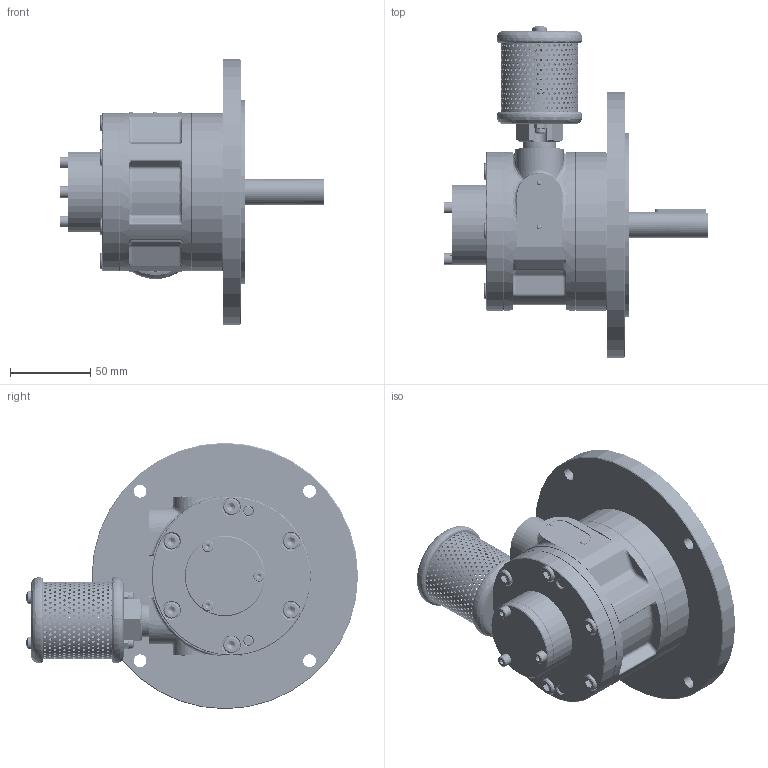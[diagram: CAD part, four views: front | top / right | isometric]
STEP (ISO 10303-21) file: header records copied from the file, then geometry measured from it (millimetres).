
FILE_DESCRIPTION (( 'STEP AP214' ), '1' );
FILE_NAME ('4VMN-Nema (Alu. End Plates)_23-04-26.STEP', '2026-04-24T04:51:39', ( '' ), ( '' ), 'SwSTEP 2.0', 'SolidWorks 2017', '' );
FILE_SCHEMA (( 'AUTOMOTIVE_DESIGN' ));
Length unit declared in the file: millimetre
Products named in the file (2): 4VMN-Nema (Alu. End Plates)_23-04-26
Bounding box: 165.05 x 206.92 x 166 mm (x, y, z)
Volume: 548588.8 mm3; surface area: 219244.6 mm2
Topology: 66 solids, 66 shells, 4559 faces, 12227 edges, 7728 vertices
Faces by surface type: cylinder 2519, cone 1086, plane 707, bspline 247
Entity records: 203772 total; most frequent: CARTESIAN_POINT 80429, ORIENTED_EDGE 24190, DIRECTION 20387, EDGE_CURVE 12095, AXIS2_PLACEMENT_3D 7951, VERTEX_POINT 7724, EDGE_LOOP 6215, FACE_OUTER_BOUND 4559
